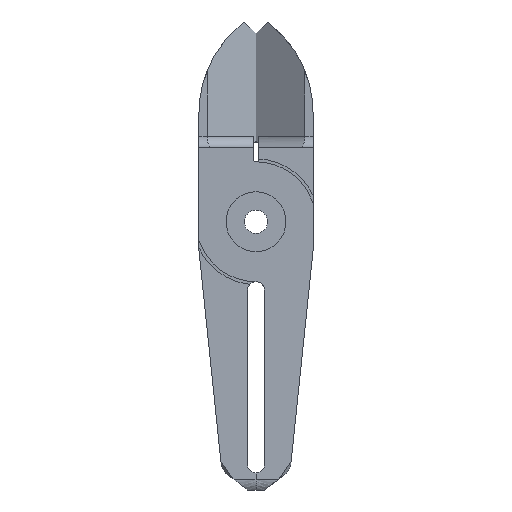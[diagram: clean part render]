
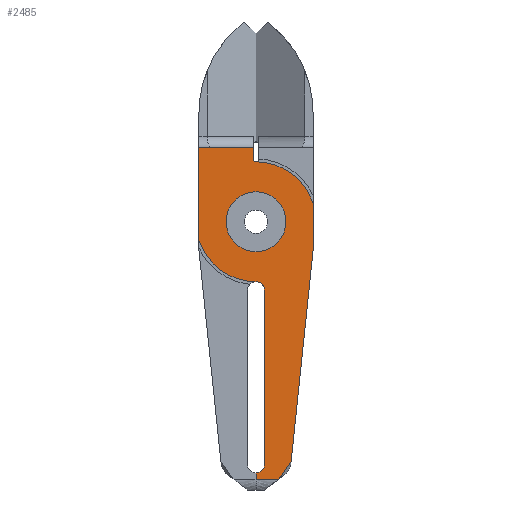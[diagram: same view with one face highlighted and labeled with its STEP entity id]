
A CAD part, front view. The second image highlights one B-rep face of the part: STEP entity #2485.
In plain terms, the highlighted planar face has unit normal (0, -1, 0).
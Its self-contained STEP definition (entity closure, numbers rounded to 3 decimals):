
#37 = DIRECTION ( 'NONE',  ( 0., 0., 1. ) ) ;
#52 = CARTESIAN_POINT ( 'NONE',  ( 0., 0., 11. ) ) ;
#70 = ORIENTED_EDGE ( 'NONE', *, *, #2724, .F. ) ;
#79 = ORIENTED_EDGE ( 'NONE', *, *, #1367, .T. ) ;
#89 = FACE_BOUND ( 'NONE', #2738, .T. ) ;
#145 = EDGE_CURVE ( 'NONE', #917, #3042, #2324, .T. ) ;
#148 = VERTEX_POINT ( 'NONE', #625 ) ;
#150 = VECTOR ( 'NONE', #525, 1000. ) ;
#193 = ORIENTED_EDGE ( 'NONE', *, *, #2780, .T. ) ;
#207 = CARTESIAN_POINT ( 'NONE',  ( 0., 0., -42.5 ) ) ;
#235 = LINE ( 'NONE', #540, #150 ) ;
#249 = CARTESIAN_POINT ( 'NONE',  ( 0., 0., -10.5 ) ) ;
#316 = DIRECTION ( 'NONE',  ( 0., 0., 1. ) ) ;
#341 = CARTESIAN_POINT ( 'NONE',  ( 1.5, 0., -27.25 ) ) ;
#412 = VECTOR ( 'NONE', #2469, 1000. ) ;
#453 = VECTOR ( 'NONE', #3118, 1000. ) ;
#466 = DIRECTION ( 'NONE',  ( 0., 0., 1. ) ) ;
#475 = CARTESIAN_POINT ( 'NONE',  ( 10., 0., -16.107 ) ) ;
#496 = CARTESIAN_POINT ( 'NONE',  ( -0.5, 0., -16.107 ) ) ;
#500 = AXIS2_PLACEMENT_3D ( 'NONE', #2790, #1297, #37 ) ;
#515 = ORIENTED_EDGE ( 'NONE', *, *, #3051, .T. ) ;
#525 = DIRECTION ( 'NONE',  ( 0., 0., -1. ) ) ;
#533 = VERTEX_POINT ( 'NONE', #785 ) ;
#535 = EDGE_CURVE ( 'NONE', #3042, #904, #235, .T. ) ;
#540 = CARTESIAN_POINT ( 'NONE',  ( -10., 0., -16.107 ) ) ;
#564 = CARTESIAN_POINT ( 'NONE',  ( 0., 0., 0. ) ) ;
#581 = VECTOR ( 'NONE', #2414, 1000. ) ;
#597 = EDGE_CURVE ( 'NONE', #1303, #1853, #2652, .T. ) ;
#625 = CARTESIAN_POINT ( 'NONE',  ( 3.795, 0., -45.215 ) ) ;
#628 = CARTESIAN_POINT ( 'NONE',  ( 0., 0., -44. ) ) ;
#635 = VERTEX_POINT ( 'NONE', #249 ) ;
#669 = VECTOR ( 'NONE', #1146, 1000. ) ;
#689 = VECTOR ( 'NONE', #1968, 1000. ) ;
#732 = VECTOR ( 'NONE', #2902, 1000. ) ;
#743 = DIRECTION ( 'NONE',  ( 0., -1., 0. ) ) ;
#785 = CARTESIAN_POINT ( 'NONE',  ( 0., 0., 10.5 ) ) ;
#786 = EDGE_CURVE ( 'NONE', #2057, #533, #2776, .T. ) ;
#795 = AXIS2_PLACEMENT_3D ( 'NONE', #2609, #2888, #1899 ) ;
#796 = VERTEX_POINT ( 'NONE', #2370 ) ;
#823 = VERTEX_POINT ( 'NONE', #3112 ) ;
#826 = DIRECTION ( 'NONE',  ( 0., 0., -1. ) ) ;
#904 = VERTEX_POINT ( 'NONE', #2149 ) ;
#917 = VERTEX_POINT ( 'NONE', #2658 ) ;
#966 = VERTEX_POINT ( 'NONE', #2748 ) ;
#985 = AXIS2_PLACEMENT_3D ( 'NONE', #2845, #1350, #3105 ) ;
#987 = CARTESIAN_POINT ( 'NONE',  ( 0., 0., -45.215 ) ) ;
#1003 = VERTEX_POINT ( 'NONE', #1817 ) ;
#1010 = DIRECTION ( 'NONE',  ( 0., 0., 1. ) ) ;
#1014 = VECTOR ( 'NONE', #1660, 1000. ) ;
#1068 = ORIENTED_EDGE ( 'NONE', *, *, #786, .T. ) ;
#1079 = VERTEX_POINT ( 'NONE', #1984 ) ;
#1097 = DIRECTION ( 'NONE',  ( 0., -1., 0. ) ) ;
#1114 = ORIENTED_EDGE ( 'NONE', *, *, #145, .T. ) ;
#1146 = DIRECTION ( 'NONE',  ( 0., 0., 1. ) ) ;
#1174 = EDGE_CURVE ( 'NONE', #904, #635, #3050, .T. ) ;
#1217 = DIRECTION ( 'NONE',  ( 0.571, 0., 0.821 ) ) ;
#1283 = CIRCLE ( 'NONE', #2719, 0.5 ) ;
#1297 = DIRECTION ( 'NONE',  ( 0., -1., 0. ) ) ;
#1303 = VERTEX_POINT ( 'NONE', #2729 ) ;
#1318 = VERTEX_POINT ( 'NONE', #2473 ) ;
#1325 = EDGE_LOOP ( 'NONE', ( #70, #3066, #193, #1840, #79, #3152, #2364, #1068, #2761, #2561, #1114, #1708, #1765, #2071, #2389 ) ) ;
#1338 = CARTESIAN_POINT ( 'NONE',  ( -10., 0., 13. ) ) ;
#1342 = CARTESIAN_POINT ( 'NONE',  ( 10., 0., -5. ) ) ;
#1350 = DIRECTION ( 'NONE',  ( 0., 1., 0. ) ) ;
#1367 = EDGE_CURVE ( 'NONE', #1318, #1003, #2433, .T. ) ;
#1380 = CARTESIAN_POINT ( 'NONE',  ( 0., 0., 13. ) ) ;
#1392 = LINE ( 'NONE', #987, #412 ) ;
#1483 = PLANE ( 'NONE',  #3027 ) ;
#1564 = EDGE_CURVE ( 'NONE', #823, #796, #1814, .T. ) ;
#1656 = EDGE_CURVE ( 'NONE', #1853, #635, #2910, .T. ) ;
#1660 = DIRECTION ( 'NONE',  ( -1., 0., 0. ) ) ;
#1708 = ORIENTED_EDGE ( 'NONE', *, *, #535, .T. ) ;
#1719 = EDGE_CURVE ( 'NONE', #966, #917, #2010, .T. ) ;
#1730 = CARTESIAN_POINT ( 'NONE',  ( -10., 0., -45.215 ) ) ;
#1765 = ORIENTED_EDGE ( 'NONE', *, *, #1174, .T. ) ;
#1787 = AXIS2_PLACEMENT_3D ( 'NONE', #207, #1958, #466 ) ;
#1811 = DIRECTION ( 'NONE',  ( 0., -1., 0. ) ) ;
#1814 = CIRCLE ( 'NONE', #2667, 5.25 ) ;
#1817 = CARTESIAN_POINT ( 'NONE',  ( 6.156, 0., -42. ) ) ;
#1840 = ORIENTED_EDGE ( 'NONE', *, *, #1914, .F. ) ;
#1853 = VERTEX_POINT ( 'NONE', #2052 ) ;
#1865 = LINE ( 'NONE', #2867, #453 ) ;
#1899 = DIRECTION ( 'NONE',  ( 0., 0., 1. ) ) ;
#1914 = EDGE_CURVE ( 'NONE', #1318, #148, #2486, .T. ) ;
#1936 = FACE_OUTER_BOUND ( 'NONE', #1325, .T. ) ;
#1958 = DIRECTION ( 'NONE',  ( 0., -1., 0. ) ) ;
#1968 = DIRECTION ( 'NONE',  ( 0., 0., 1. ) ) ;
#1984 = CARTESIAN_POINT ( 'NONE',  ( 0., 0., -45.215 ) ) ;
#2010 = LINE ( 'NONE', #496, #2752 ) ;
#2017 = LINE ( 'NONE', #475, #689 ) ;
#2052 = CARTESIAN_POINT ( 'NONE',  ( 1.5, 0., -12. ) ) ;
#2057 = VERTEX_POINT ( 'NONE', #2727 ) ;
#2071 = ORIENTED_EDGE ( 'NONE', *, *, #1656, .F. ) ;
#2113 = EDGE_CURVE ( 'NONE', #966, #533, #1283, .T. ) ;
#2149 = CARTESIAN_POINT ( 'NONE',  ( -10., 0., -3.202 ) ) ;
#2164 = CARTESIAN_POINT ( 'NONE',  ( 3.245, 0., -45.643 ) ) ;
#2192 = VERTEX_POINT ( 'NONE', #1342 ) ;
#2277 = EDGE_CURVE ( 'NONE', #3139, #1079, #2720, .T. ) ;
#2302 = DIRECTION ( 'NONE',  ( 0., 1., 0. ) ) ;
#2324 = LINE ( 'NONE', #1380, #1014 ) ;
#2357 = VECTOR ( 'NONE', #1217, 1000. ) ;
#2364 = ORIENTED_EDGE ( 'NONE', *, *, #2465, .T. ) ;
#2367 = ORIENTED_EDGE ( 'NONE', *, *, #1564, .T. ) ;
#2370 = CARTESIAN_POINT ( 'NONE',  ( 0., 0., 5.25 ) ) ;
#2389 = ORIENTED_EDGE ( 'NONE', *, *, #597, .F. ) ;
#2414 = DIRECTION ( 'NONE',  ( -0.789, 0., -0.614 ) ) ;
#2433 = LINE ( 'NONE', #2703, #2357 ) ;
#2465 = EDGE_CURVE ( 'NONE', #2192, #2057, #2017, .T. ) ;
#2469 = DIRECTION ( 'NONE',  ( 1., 0., 0. ) ) ;
#2473 = CARTESIAN_POINT ( 'NONE',  ( 4.071, 0., -45. ) ) ;
#2479 = DIRECTION ( 'NONE',  ( 1., 0., 0. ) ) ;
#2485 = ADVANCED_FACE ( 'NONE', ( #89, #1936 ), #1483, .T. ) ;
#2486 = LINE ( 'NONE', #2164, #581 ) ;
#2527 = EDGE_CURVE ( 'NONE', #1003, #2192, #1865, .T. ) ;
#2561 = ORIENTED_EDGE ( 'NONE', *, *, #1719, .T. ) ;
#2570 = CARTESIAN_POINT ( 'NONE',  ( 0., 0., -12. ) ) ;
#2609 = CARTESIAN_POINT ( 'NONE',  ( 0., 0., 0. ) ) ;
#2640 = CARTESIAN_POINT ( 'NONE',  ( 0., 0., -16.107 ) ) ;
#2652 = LINE ( 'NONE', #341, #669 ) ;
#2658 = CARTESIAN_POINT ( 'NONE',  ( -0.5, 0., 13. ) ) ;
#2667 = AXIS2_PLACEMENT_3D ( 'NONE', #564, #2302, #826 ) ;
#2703 = CARTESIAN_POINT ( 'NONE',  ( 4.071, 0., -45. ) ) ;
#2719 = AXIS2_PLACEMENT_3D ( 'NONE', #52, #1811, #316 ) ;
#2720 = LINE ( 'NONE', #2640, #732 ) ;
#2724 = EDGE_CURVE ( 'NONE', #3139, #1303, #3234, .T. ) ;
#2727 = CARTESIAN_POINT ( 'NONE',  ( 10., 0., 3.202 ) ) ;
#2729 = CARTESIAN_POINT ( 'NONE',  ( 1.5, 0., -42.5 ) ) ;
#2738 = EDGE_LOOP ( 'NONE', ( #2367, #515 ) ) ;
#2748 = CARTESIAN_POINT ( 'NONE',  ( -0.5, 0., 11. ) ) ;
#2752 = VECTOR ( 'NONE', #1010, 1000. ) ;
#2761 = ORIENTED_EDGE ( 'NONE', *, *, #2113, .F. ) ;
#2776 = CIRCLE ( 'NONE', #795, 10.5 ) ;
#2780 = EDGE_CURVE ( 'NONE', #1079, #148, #1392, .T. ) ;
#2790 = CARTESIAN_POINT ( 'NONE',  ( 0., 0., 0. ) ) ;
#2827 = DIRECTION ( 'NONE',  ( 0., 0., 1. ) ) ;
#2845 = CARTESIAN_POINT ( 'NONE',  ( 0., 0., 0. ) ) ;
#2867 = CARTESIAN_POINT ( 'NONE',  ( 6.156, 0., -42. ) ) ;
#2888 = DIRECTION ( 'NONE',  ( 0., -1., 0. ) ) ;
#2902 = DIRECTION ( 'NONE',  ( 0., 0., -1. ) ) ;
#2910 = CIRCLE ( 'NONE', #3020, 1.5 ) ;
#2954 = CIRCLE ( 'NONE', #985, 5.25 ) ;
#3020 = AXIS2_PLACEMENT_3D ( 'NONE', #2570, #1097, #2827 ) ;
#3027 = AXIS2_PLACEMENT_3D ( 'NONE', #1730, #743, #2479 ) ;
#3042 = VERTEX_POINT ( 'NONE', #1338 ) ;
#3050 = CIRCLE ( 'NONE', #500, 10.5 ) ;
#3051 = EDGE_CURVE ( 'NONE', #796, #823, #2954, .T. ) ;
#3066 = ORIENTED_EDGE ( 'NONE', *, *, #2277, .T. ) ;
#3105 = DIRECTION ( 'NONE',  ( 0., 0., -1. ) ) ;
#3112 = CARTESIAN_POINT ( 'NONE',  ( 0., 0., -5.25 ) ) ;
#3118 = DIRECTION ( 'NONE',  ( 0.103, 0., 0.995 ) ) ;
#3139 = VERTEX_POINT ( 'NONE', #628 ) ;
#3152 = ORIENTED_EDGE ( 'NONE', *, *, #2527, .T. ) ;
#3234 = CIRCLE ( 'NONE', #1787, 1.5 ) ;
